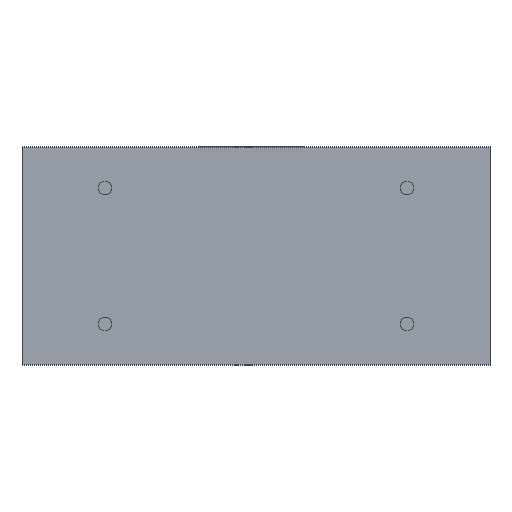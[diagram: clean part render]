
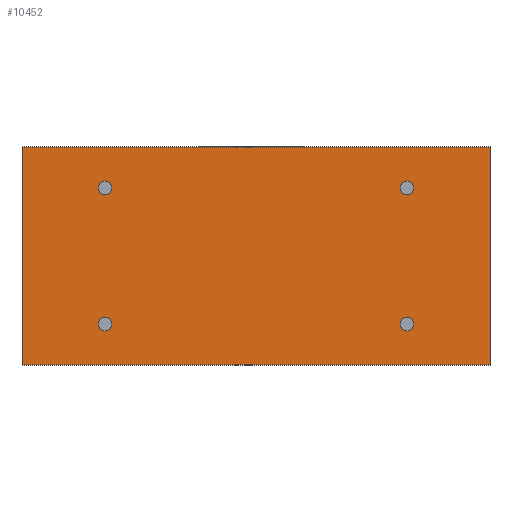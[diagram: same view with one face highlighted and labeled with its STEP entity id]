
A CAD part, front view. The second image highlights one B-rep face of the part: STEP entity #10452.
In plain terms, the highlighted planar face has unit normal (0, -1, 0).
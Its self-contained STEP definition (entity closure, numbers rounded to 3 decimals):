
#342=CIRCLE('',#11066,4.5);
#343=CIRCLE('',#11067,4.5);
#344=CIRCLE('',#11068,4.5);
#345=CIRCLE('',#11069,4.5);
#1052=ORIENTED_EDGE('',*,*,#4273,.T.);
#1053=ORIENTED_EDGE('',*,*,#4274,.F.);
#1054=ORIENTED_EDGE('',*,*,#4275,.F.);
#1055=ORIENTED_EDGE('',*,*,#4276,.F.);
#1056=ORIENTED_EDGE('',*,*,#4227,.T.);
#1057=ORIENTED_EDGE('',*,*,#4277,.F.);
#1058=ORIENTED_EDGE('',*,*,#4278,.F.);
#1059=ORIENTED_EDGE('',*,*,#4271,.T.);
#4227=EDGE_CURVE('',#5844,#5843,#6919,.T.);
#4271=EDGE_CURVE('',#5878,#5844,#6963,.T.);
#4273=EDGE_CURVE('',#5879,#5879,#342,.T.);
#4274=EDGE_CURVE('',#5880,#5880,#343,.T.);
#4275=EDGE_CURVE('',#5881,#5881,#344,.T.);
#4276=EDGE_CURVE('',#5882,#5882,#345,.T.);
#4277=EDGE_CURVE('',#5883,#5843,#6965,.T.);
#4278=EDGE_CURVE('',#5878,#5883,#6966,.T.);
#5843=VERTEX_POINT('',#15750);
#5844=VERTEX_POINT('',#15752);
#5878=VERTEX_POINT('',#15837);
#5879=VERTEX_POINT('',#15841);
#5880=VERTEX_POINT('',#15843);
#5881=VERTEX_POINT('',#15845);
#5882=VERTEX_POINT('',#15847);
#5883=VERTEX_POINT('',#15849);
#6919=LINE('',#15751,#7911);
#6963=LINE('',#15836,#7955);
#6965=LINE('',#15848,#7957);
#6966=LINE('',#15850,#7958);
#7911=VECTOR('',#12306,1000.);
#7955=VECTOR('',#12364,1000.);
#7957=VECTOR('',#12376,1000.);
#7958=VECTOR('',#12377,1000.);
#8885=EDGE_LOOP('',(#1052));
#8886=EDGE_LOOP('',(#1053));
#8887=EDGE_LOOP('',(#1054));
#8888=EDGE_LOOP('',(#1055));
#8889=EDGE_LOOP('',(#1056,#1057,#1058,#1059));
#9531=FACE_BOUND('',#8885,.T.);
#9532=FACE_BOUND('',#8886,.T.);
#9533=FACE_BOUND('',#8887,.T.);
#9534=FACE_BOUND('',#8888,.T.);
#9535=FACE_BOUND('',#8889,.T.);
#10177=PLANE('',#11065);
#10452=ADVANCED_FACE('',(#9531,#9532,#9533,#9534,#9535),#10177,.F.);
#11065=AXIS2_PLACEMENT_3D('',#15839,#12366,#12367);
#11066=AXIS2_PLACEMENT_3D('',#15840,#12368,#12369);
#11067=AXIS2_PLACEMENT_3D('',#15842,#12370,#12371);
#11068=AXIS2_PLACEMENT_3D('',#15844,#12372,#12373);
#11069=AXIS2_PLACEMENT_3D('',#15846,#12374,#12375);
#12306=DIRECTION('',(0.,0.,-1.));
#12364=DIRECTION('',(-1.,0.,0.));
#12366=DIRECTION('',(0.,1.,0.));
#12367=DIRECTION('',(0.,0.,1.));
#12368=DIRECTION('',(0.,1.,0.));
#12369=DIRECTION('',(0.,0.,1.));
#12370=DIRECTION('',(0.,-1.,0.));
#12371=DIRECTION('',(0.,0.,-1.));
#12372=DIRECTION('',(0.,-1.,0.));
#12373=DIRECTION('',(0.,0.,-1.));
#12374=DIRECTION('',(0.,-1.,0.));
#12375=DIRECTION('',(0.,0.,-1.));
#12376=DIRECTION('',(-1.,0.,0.));
#12377=DIRECTION('',(0.,0.,-1.));
#15750=CARTESIAN_POINT('',(0.,0.,-72.2));
#15751=CARTESIAN_POINT('',(0.,0.,72.2));
#15752=CARTESIAN_POINT('',(0.,0.,72.2));
#15836=CARTESIAN_POINT('',(310.,0.,72.2));
#15837=CARTESIAN_POINT('',(310.,0.,72.2));
#15839=CARTESIAN_POINT('',(310.,0.,72.2));
#15840=CARTESIAN_POINT('',(255.,0.,45.));
#15841=CARTESIAN_POINT('',(255.,0.,49.5));
#15842=CARTESIAN_POINT('',(255.,0.,-45.));
#15843=CARTESIAN_POINT('',(255.,0.,-49.5));
#15844=CARTESIAN_POINT('',(55.,0.,-45.));
#15845=CARTESIAN_POINT('',(55.,0.,-49.5));
#15846=CARTESIAN_POINT('',(55.,0.,45.));
#15847=CARTESIAN_POINT('',(55.,0.,40.5));
#15848=CARTESIAN_POINT('',(310.,0.,-72.2));
#15849=CARTESIAN_POINT('',(310.,0.,-72.2));
#15850=CARTESIAN_POINT('',(310.,0.,72.2));
